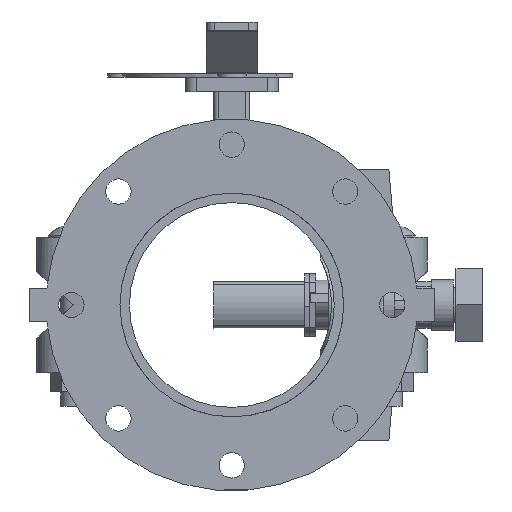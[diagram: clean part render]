
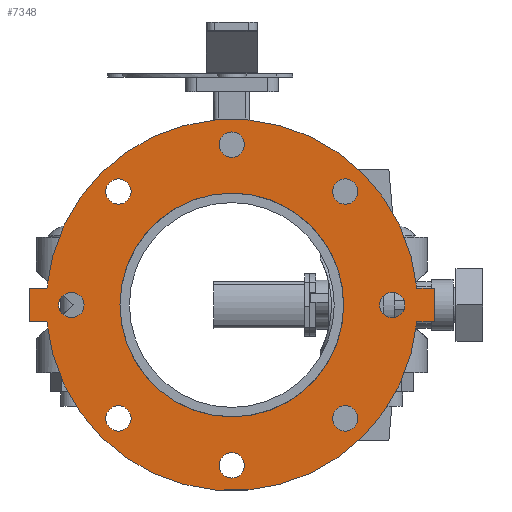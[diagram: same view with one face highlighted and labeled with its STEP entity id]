
A CAD part, front view. The second image highlights one B-rep face of the part: STEP entity #7348.
In plain terms, the highlighted planar face has unit normal (0, -1, 0) as drawn and (0, 0, -1) by its records, which use the part's own axes.
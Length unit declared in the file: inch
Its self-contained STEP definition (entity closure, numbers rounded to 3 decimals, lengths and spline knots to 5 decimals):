
#158=FACE_BOUND('',#907,.T.);
#159=FACE_BOUND('',#908,.T.);
#160=FACE_BOUND('',#909,.T.);
#161=FACE_BOUND('',#910,.T.);
#162=FACE_BOUND('',#911,.T.);
#163=FACE_BOUND('',#912,.T.);
#164=FACE_BOUND('',#913,.T.);
#165=FACE_BOUND('',#914,.T.);
#166=FACE_BOUND('',#915,.T.);
#253=PLANE('',#7944);
#499=FACE_OUTER_BOUND('',#906,.T.);
#906=EDGE_LOOP('',(#4723,#4724,#4725,#4726,#4727,#4728,#4729,#4730));
#907=EDGE_LOOP('',(#4731));
#908=EDGE_LOOP('',(#4732));
#909=EDGE_LOOP('',(#4733));
#910=EDGE_LOOP('',(#4734));
#911=EDGE_LOOP('',(#4735));
#912=EDGE_LOOP('',(#4736));
#913=EDGE_LOOP('',(#4737));
#914=EDGE_LOOP('',(#4738));
#915=EDGE_LOOP('',(#4739,#4740));
#1408=LINE('',#11109,#1976);
#1409=LINE('',#11111,#1977);
#1410=LINE('',#11113,#1978);
#1411=LINE('',#11117,#1979);
#1412=LINE('',#11119,#1980);
#1413=LINE('',#11120,#1981);
#1976=VECTOR('',#8838,0.3937);
#1977=VECTOR('',#8839,0.3937);
#1978=VECTOR('',#8840,0.3937);
#1979=VECTOR('',#8843,0.3937);
#1980=VECTOR('',#8844,0.3937);
#1981=VECTOR('',#8845,0.3937);
#2537=CIRCLE('',#7922,0.375);
#2539=CIRCLE('',#7925,0.375);
#2541=CIRCLE('',#7928,0.375);
#2543=CIRCLE('',#7931,0.375);
#2545=CIRCLE('',#7934,0.375);
#2547=CIRCLE('',#7937,0.375);
#2549=CIRCLE('',#7940,0.375);
#2551=CIRCLE('',#7943,0.375);
#2552=CIRCLE('',#7945,5.5);
#2553=CIRCLE('',#7946,5.5);
#2554=CIRCLE('',#7947,3.3125);
#2555=CIRCLE('',#7948,3.3125);
#2946=VERTEX_POINT('',#11059);
#2948=VERTEX_POINT('',#11065);
#2950=VERTEX_POINT('',#11071);
#2952=VERTEX_POINT('',#11077);
#2954=VERTEX_POINT('',#11083);
#2956=VERTEX_POINT('',#11089);
#2958=VERTEX_POINT('',#11095);
#2960=VERTEX_POINT('',#11101);
#2961=VERTEX_POINT('',#11105);
#2962=VERTEX_POINT('',#11106);
#2963=VERTEX_POINT('',#11108);
#2964=VERTEX_POINT('',#11110);
#2965=VERTEX_POINT('',#11112);
#2966=VERTEX_POINT('',#11114);
#2967=VERTEX_POINT('',#11116);
#2968=VERTEX_POINT('',#11118);
#2969=VERTEX_POINT('',#11121);
#2970=VERTEX_POINT('',#11122);
#3648=EDGE_CURVE('',#2946,#2946,#2537,.T.);
#3651=EDGE_CURVE('',#2948,#2948,#2539,.T.);
#3654=EDGE_CURVE('',#2950,#2950,#2541,.T.);
#3657=EDGE_CURVE('',#2952,#2952,#2543,.T.);
#3660=EDGE_CURVE('',#2954,#2954,#2545,.T.);
#3663=EDGE_CURVE('',#2956,#2956,#2547,.T.);
#3666=EDGE_CURVE('',#2958,#2958,#2549,.T.);
#3669=EDGE_CURVE('',#2960,#2960,#2551,.T.);
#3670=EDGE_CURVE('',#2961,#2962,#2552,.T.);
#3671=EDGE_CURVE('',#2962,#2963,#1408,.T.);
#3672=EDGE_CURVE('',#2963,#2964,#1409,.T.);
#3673=EDGE_CURVE('',#2964,#2965,#1410,.T.);
#3674=EDGE_CURVE('',#2965,#2966,#2553,.T.);
#3675=EDGE_CURVE('',#2966,#2967,#1411,.T.);
#3676=EDGE_CURVE('',#2967,#2968,#1412,.T.);
#3677=EDGE_CURVE('',#2968,#2961,#1413,.T.);
#3678=EDGE_CURVE('',#2969,#2970,#2554,.T.);
#3679=EDGE_CURVE('',#2970,#2969,#2555,.T.);
#4723=ORIENTED_EDGE('',*,*,#3670,.T.);
#4724=ORIENTED_EDGE('',*,*,#3671,.T.);
#4725=ORIENTED_EDGE('',*,*,#3672,.T.);
#4726=ORIENTED_EDGE('',*,*,#3673,.T.);
#4727=ORIENTED_EDGE('',*,*,#3674,.T.);
#4728=ORIENTED_EDGE('',*,*,#3675,.T.);
#4729=ORIENTED_EDGE('',*,*,#3676,.T.);
#4730=ORIENTED_EDGE('',*,*,#3677,.T.);
#4731=ORIENTED_EDGE('',*,*,#3648,.T.);
#4732=ORIENTED_EDGE('',*,*,#3651,.T.);
#4733=ORIENTED_EDGE('',*,*,#3654,.T.);
#4734=ORIENTED_EDGE('',*,*,#3657,.T.);
#4735=ORIENTED_EDGE('',*,*,#3660,.T.);
#4736=ORIENTED_EDGE('',*,*,#3663,.T.);
#4737=ORIENTED_EDGE('',*,*,#3666,.T.);
#4738=ORIENTED_EDGE('',*,*,#3669,.T.);
#4739=ORIENTED_EDGE('',*,*,#3678,.T.);
#4740=ORIENTED_EDGE('',*,*,#3679,.T.);
#7348=ADVANCED_FACE('',(#499,#158,#159,#160,#161,#162,#163,#164,#165,#166),
#253,.T.);
#7922=AXIS2_PLACEMENT_3D('',#11061,#8783,#8784);
#7925=AXIS2_PLACEMENT_3D('',#11067,#8790,#8791);
#7928=AXIS2_PLACEMENT_3D('',#11073,#8797,#8798);
#7931=AXIS2_PLACEMENT_3D('',#11079,#8804,#8805);
#7934=AXIS2_PLACEMENT_3D('',#11085,#8811,#8812);
#7937=AXIS2_PLACEMENT_3D('',#11091,#8818,#8819);
#7940=AXIS2_PLACEMENT_3D('',#11097,#8825,#8826);
#7943=AXIS2_PLACEMENT_3D('',#11103,#8832,#8833);
#7944=AXIS2_PLACEMENT_3D('',#11104,#8834,#8835);
#7945=AXIS2_PLACEMENT_3D('',#11107,#8836,#8837);
#7946=AXIS2_PLACEMENT_3D('',#11115,#8841,#8842);
#7947=AXIS2_PLACEMENT_3D('',#11123,#8846,#8847);
#7948=AXIS2_PLACEMENT_3D('',#11124,#8848,#8849);
#8783=DIRECTION('center_axis',(0.,0.,1.));
#8784=DIRECTION('ref_axis',(-0.707,0.707,0.));
#8790=DIRECTION('center_axis',(0.,0.,1.));
#8791=DIRECTION('ref_axis',(0.,1.,0.));
#8797=DIRECTION('center_axis',(0.,0.,1.));
#8798=DIRECTION('ref_axis',(0.707,0.707,0.));
#8804=DIRECTION('center_axis',(0.,0.,1.));
#8805=DIRECTION('ref_axis',(1.,0.,0.));
#8811=DIRECTION('center_axis',(0.,0.,1.));
#8812=DIRECTION('ref_axis',(0.707,-0.707,0.));
#8818=DIRECTION('center_axis',(0.,0.,1.));
#8819=DIRECTION('ref_axis',(0.,-1.,0.));
#8825=DIRECTION('center_axis',(0.,0.,1.));
#8826=DIRECTION('ref_axis',(-0.707,-0.707,0.));
#8832=DIRECTION('center_axis',(0.,0.,1.));
#8833=DIRECTION('ref_axis',(-1.,0.,0.));
#8834=DIRECTION('center_axis',(0.,0.,-1.));
#8835=DIRECTION('ref_axis',(-1.,0.,0.));
#8836=DIRECTION('center_axis',(0.,0.,-1.));
#8837=DIRECTION('ref_axis',(-1.,0.,0.));
#8838=DIRECTION('',(0.,1.,0.));
#8839=DIRECTION('',(1.,0.,0.));
#8840=DIRECTION('',(0.,-1.,0.));
#8841=DIRECTION('center_axis',(0.,0.,-1.));
#8842=DIRECTION('ref_axis',(-1.,0.,0.));
#8843=DIRECTION('',(0.,-1.,0.));
#8844=DIRECTION('',(-1.,0.,0.));
#8845=DIRECTION('',(0.,1.,0.));
#8846=DIRECTION('center_axis',(0.,0.,1.));
#8847=DIRECTION('ref_axis',(-1.,0.,0.));
#8848=DIRECTION('center_axis',(0.,0.,1.));
#8849=DIRECTION('ref_axis',(-1.,0.,0.));
#11059=CARTESIAN_POINT('',(-3.09359,3.09359,-0.5));
#11061=CARTESIAN_POINT('Origin',(-3.35876,3.35876,-0.5));
#11065=CARTESIAN_POINT('',(0.,4.375,-0.5));
#11067=CARTESIAN_POINT('Origin',(0.,4.75,-0.5));
#11071=CARTESIAN_POINT('',(3.09359,3.09359,-0.5));
#11073=CARTESIAN_POINT('Origin',(3.35876,3.35876,-0.5));
#11077=CARTESIAN_POINT('',(4.375,0.,-0.5));
#11079=CARTESIAN_POINT('Origin',(4.75,0.,-0.5));
#11083=CARTESIAN_POINT('',(3.09359,-3.09359,-0.5));
#11085=CARTESIAN_POINT('Origin',(3.35876,-3.35876,-0.5));
#11089=CARTESIAN_POINT('',(0.,-4.375,-0.5));
#11091=CARTESIAN_POINT('Origin',(0.,-4.75,-0.5));
#11095=CARTESIAN_POINT('',(-3.09359,-3.09359,-0.5));
#11097=CARTESIAN_POINT('Origin',(-3.35876,-3.35876,-0.5));
#11101=CARTESIAN_POINT('',(-4.375,0.,-0.5));
#11103=CARTESIAN_POINT('Origin',(-4.75,0.,-0.5));
#11104=CARTESIAN_POINT('Origin',(0.,0.,-0.5));
#11105=CARTESIAN_POINT('',(-0.5,-5.47723,-0.5));
#11106=CARTESIAN_POINT('',(-0.5,5.47723,-0.5));
#11107=CARTESIAN_POINT('Origin',(0.,0.,-0.5));
#11108=CARTESIAN_POINT('',(-0.5,6.,-0.5));
#11109=CARTESIAN_POINT('',(-0.5,-6.,-0.5));
#11110=CARTESIAN_POINT('',(0.5,6.,-0.5));
#11111=CARTESIAN_POINT('',(-0.5,6.,-0.5));
#11112=CARTESIAN_POINT('',(0.5,5.47723,-0.5));
#11113=CARTESIAN_POINT('',(0.5,6.,-0.5));
#11114=CARTESIAN_POINT('',(0.5,-5.47723,-0.5));
#11115=CARTESIAN_POINT('Origin',(0.,0.,-0.5));
#11116=CARTESIAN_POINT('',(0.5,-6.,-0.5));
#11117=CARTESIAN_POINT('',(0.5,6.,-0.5));
#11118=CARTESIAN_POINT('',(-0.5,-6.,-0.5));
#11119=CARTESIAN_POINT('',(0.5,-6.,-0.5));
#11120=CARTESIAN_POINT('',(-0.5,-6.,-0.5));
#11121=CARTESIAN_POINT('',(0.5,3.27455,-0.5));
#11122=CARTESIAN_POINT('',(3.3125,0.,-0.5));
#11123=CARTESIAN_POINT('Origin',(0.,0.,-0.5));
#11124=CARTESIAN_POINT('Origin',(0.,0.,-0.5));
